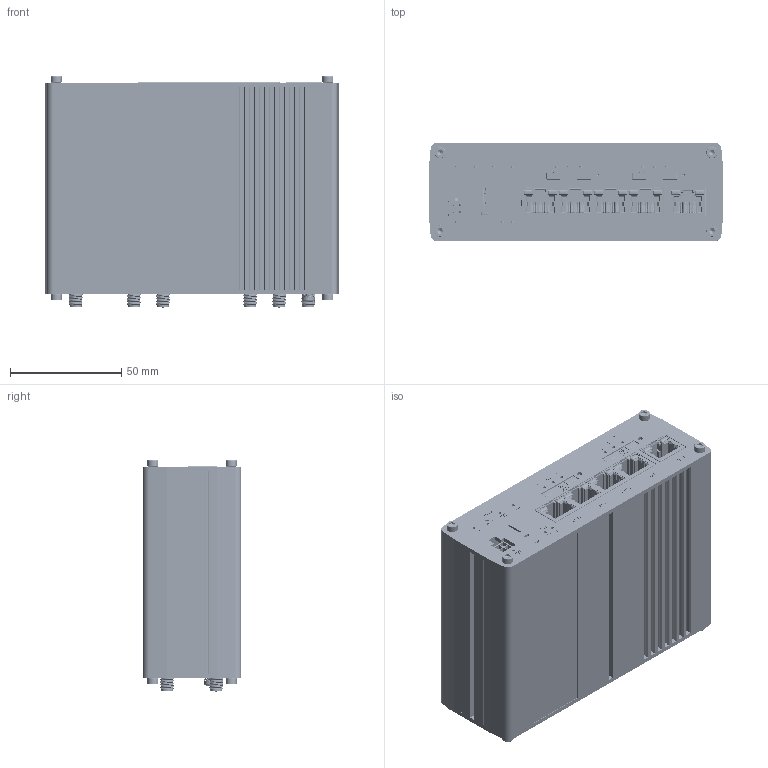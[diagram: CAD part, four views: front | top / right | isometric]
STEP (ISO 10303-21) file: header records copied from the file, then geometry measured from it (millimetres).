
FILE_DESCRIPTION (( 'STEP AP214' ), '1' );
FILE_NAME ('0421_RTM50DAM000X_02.STEP', '2024-07-23T06:09:03', ( '' ), ( '' ), 'SwSTEP 2.0', 'SolidWorks 2024', '' );
FILE_SCHEMA (( 'AUTOMOTIVE_DESIGN' ));
Length unit declared in the file: millimetre
Products named in the file (3): 0220_RUTM50PRBKT_01_RUTM50_engraving; 0421_RTM50DAM000X_02; 0421_RTM50DAM000X_02_SMA4_simplified.STEP
Assembly tree (2 placements, depth 2):
  0421_RTM50DAM000X_02
    0421_RTM50DAM000X_02_SMA4_simplified.STEP
    0220_RUTM50PRBKT_01_RUTM50_engraving
Bounding box: 132 x 44.2 x 103.9 mm (x, y, z)
Volume: 182438.3 mm3; surface area: 190375.8 mm2
Topology: 92 solids, 95 shells, 10203 faces, 27863 edges, 18116 vertices
Faces by surface type: plane 5913, cylinder 3108, bspline 925, torus 96, cone 82, sphere 79
Entity records: 486535 total; most frequent: CARTESIAN_POINT 127452, ORIENTED_EDGE 55498, DIRECTION 44562, EDGE_CURVE 27749, VERTEX_POINT 18115, VECTOR 17502, LINE 17502, AXIS2_PLACEMENT_3D 13530
